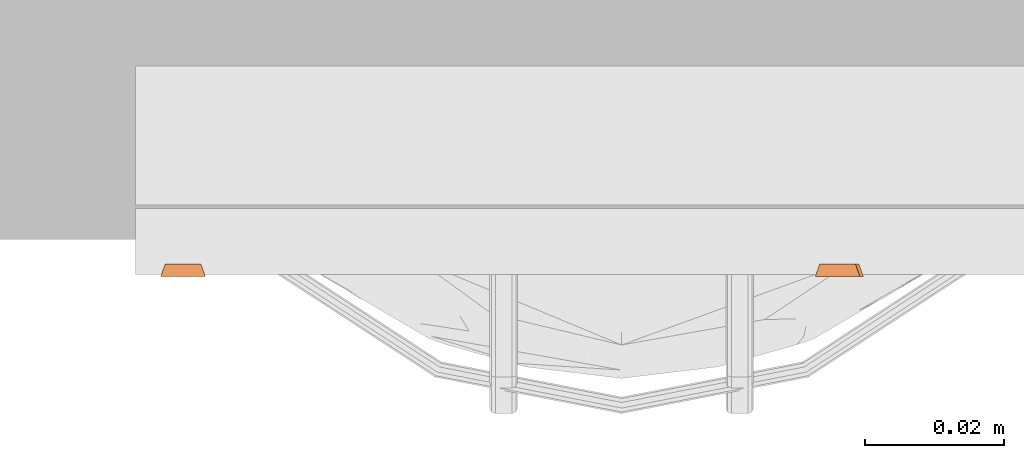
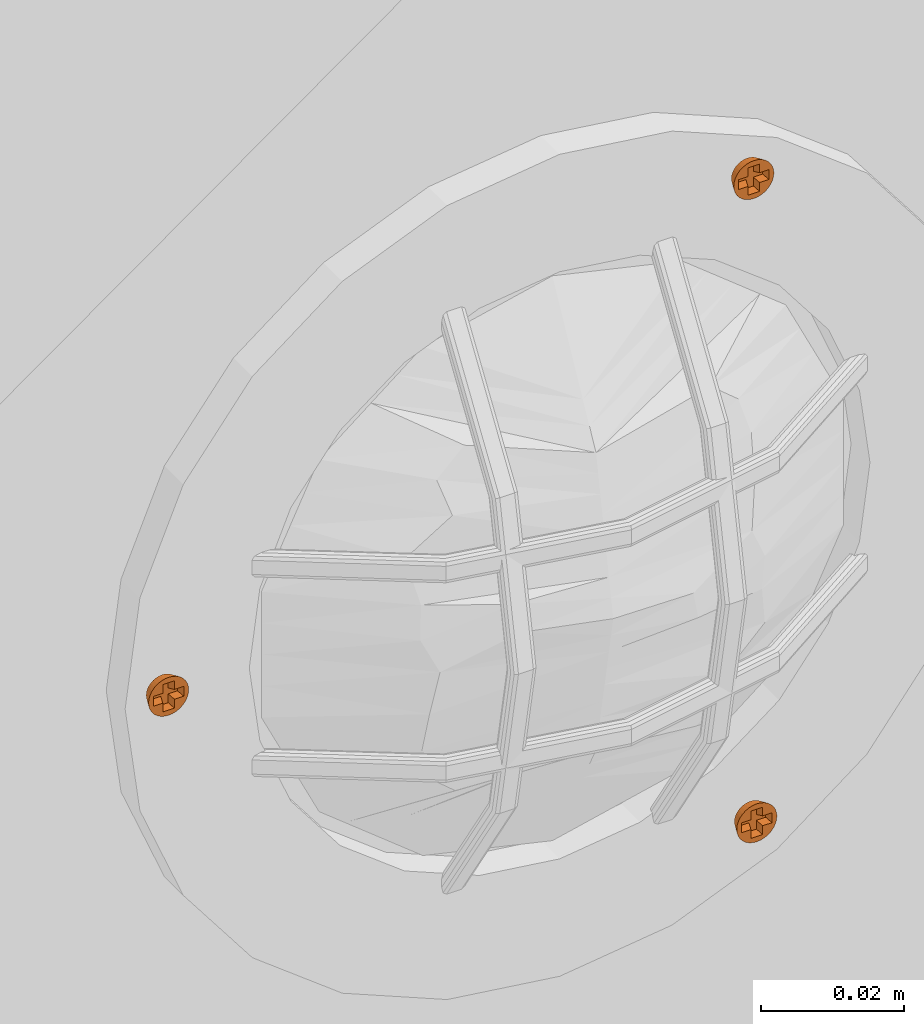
# One storey, part 2 of 2: 3 proxies.
"""IFC2X3 building model written with IfcOpenShell, lengths in metres."""

from ifc_helpers import new_model, si_unit, direction, frame, origin, place, context, subcontext, project, spatial, faceted_brep, source, transform, mapped, material, type_object, type_shapes, element, save


model = new_model("IFC2X3")

# Units and contexts
model_context = context("Model", 3, precision=1e-05, world=origin(), true_north=direction((6.123233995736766e-17, 1.0)))
body_context = subcontext(model_context, "Body", "Model", "MODEL_VIEW")
ifc_project = project(units=[si_unit("LENGTHUNIT", "METRE"), si_unit("AREAUNIT", "SQUARE_METRE")], contexts=[model_context])

# Site, building, storey
site_placement = place(None, origin())
site = spatial("IfcSite", under=ifc_project, at=site_placement, Name="Default", CompositionType="ELEMENT")
building_placement = place(site_placement, origin())
building = spatial("IfcBuilding", under=site, at=building_placement, CompositionType="ELEMENT")
storey_placement = place(building_placement, origin())
storey = spatial("IfcBuildingStorey", under=building, at=storey_placement, Name="Level 1", CompositionType="ELEMENT", Elevation=0.0)

# Proxies
ifc_material = material(Name="Brass")
building_element_proxy_type = type_object("IfcBuildingElementProxyType", Name="Screw:Screw", PredefinedType="NOTDEFINED", material=ifc_material)
shared_shape = source(origin(), body_context, "Body", "Brep", [
    faceted_brep([(-0.003171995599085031, 0.0006309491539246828, 0.000316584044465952), (-0.0024394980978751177, 0.0008394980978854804, 0.0003165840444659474), (-0.0029879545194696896, 0.0012376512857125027, 0.0003165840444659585), (-0.0024394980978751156, 0.0, 0.0003165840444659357), (-0.0032341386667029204, 0.0, 0.00031658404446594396), (-0.0031719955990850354, -0.0006309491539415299, 0.00031658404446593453), (-0.0024394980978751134, -0.0008394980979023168, 0.0003165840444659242), (-0.002987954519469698, -0.00123765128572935, 0.00031658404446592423), (-0.0026890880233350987, -0.0017967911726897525, 0.00031658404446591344), (-0.0022868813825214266, -0.0022868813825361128, 0.00031658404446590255), (-0.000939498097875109, -0.0008394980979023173, 0.0003165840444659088), (-0.0009394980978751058, -0.0023394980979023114, 0.000316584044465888), (-0.0017967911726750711, -0.002689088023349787, 0.000316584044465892), (-0.001237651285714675, -0.0029879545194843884, 0.00031658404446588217), (-0.0006309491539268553, -0.003171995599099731, 0.00031658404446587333), (0.0, -0.0032341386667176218, 0.000316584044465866), (0.0009394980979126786, -0.002339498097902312, 0.0003165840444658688), (0.0006309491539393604, -0.003171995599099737, 0.0003165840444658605), (0.0012376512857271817, -0.0029879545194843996, 0.00031658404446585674), (0.001796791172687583, -0.0026890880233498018, 0.00031658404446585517), (0.0022868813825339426, -0.0022868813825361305, 0.0003165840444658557), (0.0009394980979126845, -0.0008394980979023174, 0.00031658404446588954), (0.0024415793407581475, -0.0008394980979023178, 0.00031658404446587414), (0.0026890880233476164, -0.0017967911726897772, 0.00031658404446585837), (0.002987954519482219, -0.0012376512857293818, 0.00031658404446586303), (0.0031719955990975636, -0.0006309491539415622, 0.00031658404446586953), (0.0024415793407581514, 0.0, 0.0003165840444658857), (0.0032341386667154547, 0.0, 0.00031658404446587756), (0.0031719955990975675, 0.0006309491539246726, 0.000316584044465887), (0.002441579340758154, 0.0008394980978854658, 0.00031658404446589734), (0.002987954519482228, 0.0012376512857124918, 0.0003165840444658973), (0.002689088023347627, 0.0017967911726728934, 0.000316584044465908), (0.002286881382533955, 0.00228688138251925, 0.000316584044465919), (0.0009394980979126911, 0.0008394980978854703, 0.00031658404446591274), (0.000939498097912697, 0.002325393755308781, 0.0003165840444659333), (0.0017967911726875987, 0.002689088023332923, 0.00031658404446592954), (0.0012376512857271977, 0.0029879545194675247, 0.00031658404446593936), (0.0006309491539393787, 0.0031719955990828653, 0.0003165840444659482), (0.0, 0.0032341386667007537, 0.0003165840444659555), (-0.0009394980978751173, 0.0023253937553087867, 0.00031658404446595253), (-0.0006309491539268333, 0.003171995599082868, 0.00031658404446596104), (-0.0012376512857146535, 0.002987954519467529, 0.0003165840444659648), (-0.0017967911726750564, 0.0026890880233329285, 0.00031658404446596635), (-0.0022868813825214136, 0.0022868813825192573, 0.0003165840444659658), (-0.0009394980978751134, 0.0008394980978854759, 0.000316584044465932), (-0.0026890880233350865, 0.0017967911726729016, 0.00031658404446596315), (0.0, 0.0, -0.001499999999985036), (-0.002572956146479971, 0.0, -0.0014999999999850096), (-0.0025235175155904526, 0.0005019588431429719, -0.0014999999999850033), (-0.002377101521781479, 0.0009846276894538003, -0.001499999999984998), (-0.0021393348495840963, 0.0014294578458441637, -0.0014999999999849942), (-0.0018193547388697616, 0.0018193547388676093, -0.0014999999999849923), (-0.0014294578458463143, 0.0021393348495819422, -0.0014999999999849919), (-0.0009846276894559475, 0.002377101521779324, -0.001499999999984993), (-0.0005019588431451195, 0.0025235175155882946, -0.0014999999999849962), (0.0, 0.002572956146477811, -0.0014999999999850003), (0.0005019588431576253, 0.0025235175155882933, -0.0014999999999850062), (0.0009846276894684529, 0.0023771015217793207, -0.0014999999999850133), (0.0014294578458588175, 0.002139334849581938, -0.0014999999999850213), (0.0018193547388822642, 0.0018193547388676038, -0.0014999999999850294), (0.0021393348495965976, 0.001429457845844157, -0.0014999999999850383), (0.00237710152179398, 0.0009846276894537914, -0.001499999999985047), (0.0025235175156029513, 0.0005019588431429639, -0.0014999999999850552), (0.0025729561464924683, 0.0, -0.0014999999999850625), (-0.0025235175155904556, -0.0005019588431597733, -0.001499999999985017), (-0.002377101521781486, -0.0009846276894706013, -0.0014999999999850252), (-0.0021393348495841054, -0.0014294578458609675, -0.001499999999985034), (-0.0018193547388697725, -0.0018193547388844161, -0.0014999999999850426), (-0.001429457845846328, -0.002139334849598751, -0.0014999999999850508), (-0.0009846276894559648, -0.002377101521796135, -0.0014999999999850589), (-0.0005019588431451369, -0.0025235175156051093, -0.001499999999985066), (0.0, -0.002572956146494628, -0.0014999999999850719), (0.002523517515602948, -0.0005019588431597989, -0.0014999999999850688), (0.002377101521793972, -0.0009846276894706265, -0.0014999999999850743), (0.002139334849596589, -0.0014294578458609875, -0.001499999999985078), (0.0018193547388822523, -0.001819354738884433, -0.0014999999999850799), (0.0014294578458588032, -0.0021393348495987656, -0.0014999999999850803), (0.0009846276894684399, -0.002377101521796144, -0.0014999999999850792), (0.0005019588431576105, -0.002523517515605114, -0.001499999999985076), (-0.0005999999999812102, -0.0005000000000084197, -0.0008462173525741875), (-0.0005999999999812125, -0.00200000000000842, -0.0008462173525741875), (0.0006000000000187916, -0.002000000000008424, -0.0008462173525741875), (0.0006000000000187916, -0.0005000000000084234, -0.0008462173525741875), (0.002102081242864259, -0.0005000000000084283, -0.0008462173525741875), (0.002102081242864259, 0.0004999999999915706, -0.0008462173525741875), (0.0006000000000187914, 0.0004999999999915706, -0.0008462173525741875), (0.0006000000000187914, 0.001985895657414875, -0.0008462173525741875), (-0.0005999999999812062, 0.001985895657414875, -0.0008462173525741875), (-0.0005999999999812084, 0.0004999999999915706, -0.0008462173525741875), (-0.0020999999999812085, 0.0004999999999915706, -0.0008462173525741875), (-0.00209999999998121, -0.0005000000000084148, -0.0008462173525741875)], [[[0, 1, 2]], [[3, 1, 0]], [[3, 0, 4]], [[3, 4, 5]], [[6, 3, 5]], [[6, 5, 7]], [[6, 7, 8]], [[9, 6, 8]], [[9, 10, 6]], [[10, 9, 11]], [[11, 9, 12]], [[13, 11, 12]], [[13, 14, 11]], [[11, 14, 15]], [[16, 11, 15]], [[15, 17, 16]], [[16, 17, 18]], [[19, 16, 18]], [[19, 20, 16]], [[16, 20, 21]], [[21, 20, 22]], [[20, 23, 22]], [[22, 23, 24]], [[24, 25, 22]], [[26, 22, 25]], [[27, 26, 25]], [[28, 26, 27]], [[29, 26, 28]], [[29, 28, 30]], [[31, 29, 30]], [[29, 31, 32]], [[32, 33, 29]], [[33, 32, 34]], [[32, 35, 34]], [[36, 34, 35]], [[37, 34, 36]], [[38, 34, 37]], [[38, 39, 34]], [[38, 40, 39]], [[41, 39, 40]], [[39, 41, 42]], [[43, 39, 42]], [[43, 1, 44]], [[43, 45, 1]], [[44, 39, 43]], [[2, 1, 45]], [[46, 47, 48]], [[48, 49, 46]], [[50, 46, 49]], [[51, 46, 50]], [[46, 51, 52]], [[52, 53, 46]], [[53, 54, 46]], [[54, 55, 46]], [[55, 56, 46]], [[57, 46, 56]], [[46, 57, 58]], [[58, 59, 46]], [[60, 46, 59]], [[61, 46, 60]], [[62, 46, 61]], [[62, 63, 46]], [[46, 64, 47]], [[46, 65, 64]], [[65, 46, 66]], [[67, 66, 46]], [[67, 46, 68]], [[69, 68, 46]], [[46, 70, 69]], [[46, 71, 70]], [[46, 63, 72]], [[73, 46, 72]], [[73, 74, 46]], [[75, 46, 74]], [[76, 46, 75]], [[46, 76, 77]], [[77, 78, 46]], [[71, 46, 78]], [[62, 28, 27, 63]], [[28, 62, 61, 30]], [[61, 60, 31, 30]], [[32, 59, 58, 35]], [[58, 57, 36, 35]], [[60, 59, 32, 31]], [[57, 56, 37, 36]], [[37, 56, 55, 38]], [[53, 41, 40, 54]], [[41, 53, 52, 42]], [[52, 51, 43, 42]], [[45, 50, 49, 2]], [[49, 48, 0, 2]], [[51, 50, 45, 43]], [[48, 47, 4, 0]], [[40, 38, 55, 54]], [[64, 5, 4, 47]], [[5, 64, 65, 7]], [[65, 66, 8, 7]], [[9, 67, 68, 12]], [[68, 69, 13, 12]], [[66, 67, 9, 8]], [[69, 70, 14, 13]], [[14, 70, 71, 15]], [[77, 18, 17, 78]], [[18, 77, 76, 19]], [[76, 75, 20, 19]], [[23, 74, 73, 24]], [[73, 72, 25, 24]], [[75, 74, 23, 20]], [[72, 63, 27, 25]], [[17, 15, 71, 78]], [[79, 80, 81, 82, 83, 84, 85, 86, 87, 88, 89, 90]], [[87, 86, 34, 39]], [[44, 88, 87, 39]], [[80, 79, 10, 11]], [[89, 88, 44, 1]], [[33, 85, 84, 29]], [[3, 6, 90, 89, 1]], [[10, 79, 90, 6]], [[83, 82, 21, 22]], [[16, 81, 80, 11]], [[21, 82, 81, 16]], [[86, 85, 33, 34]], [[26, 29, 84, 83, 22]]]),
])
type_shapes(building_element_proxy_type, [shared_shape])
for number, where, z_axis, x_axis, name in (
    (1, (-3.6515805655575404, 2.0262861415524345, 2.0), (0.0, -1.0, 0.0), (1.0, 0.0, 0.0), "Screw:Screw"),
    (2, (-3.55682043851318, 2.026286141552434, 1.9452837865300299), (0.0, -1.0, 0.0), (1.0, 0.0, 0.0), "Screw:Screw"),
    (3, (-3.5573063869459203, 2.026286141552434, 2.054999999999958), (0.0, -1.0, 0.0), (1.0, 0.0, 0.0), "Screw:Screw"),
):
    element("IfcBuildingElementProxy", number, at=place(storey_placement, frame(where, z_axis=z_axis, x_axis=x_axis)), inside=storey, type_object=building_element_proxy_type, material=ifc_material, Name=name, ObjectType="Screw:Screw", context=body_context, shape_type="MappedRepresentation", body=[
        mapped(shared_shape, transform((0.0, 0.0, 0.0), scale=1.0)),
    ])

save(model, "model.ifc")
